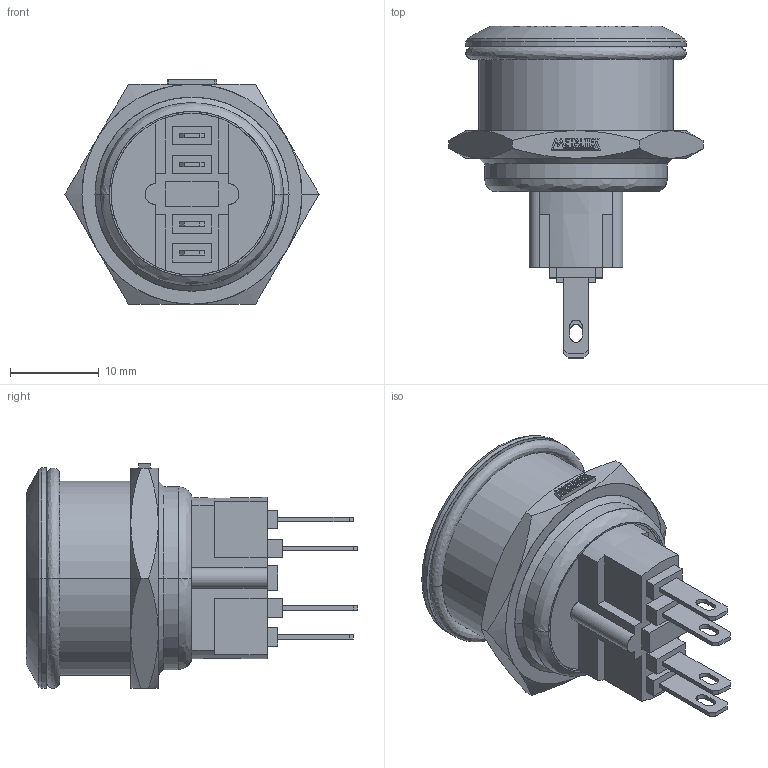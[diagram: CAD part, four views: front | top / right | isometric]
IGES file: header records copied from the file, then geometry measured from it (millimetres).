
Start section: SolidWorks IGES file using analytic representation for surfaces
Global section: file name: D:\X - Arquivos\PROEX\Empresas\P11 - METALTEX\01 - Produtos\IGES\Segunda remessa\AV22FC.IGS; native system: SolidWorks 2012; preprocessor: SolidWorks 2012; author: Usuario; date: 180117.122831; units: millimetre
Bounding box: 28.6 x 37.35 x 25.28 mm (x, y, z)
Surface area: 3620.3 mm2 (no closed solid volume)
Topology: 0 solids, 0 shells, 241 faces, 1974 edges, 1974 vertices
Faces by surface type: bspline 193, revolution 48
